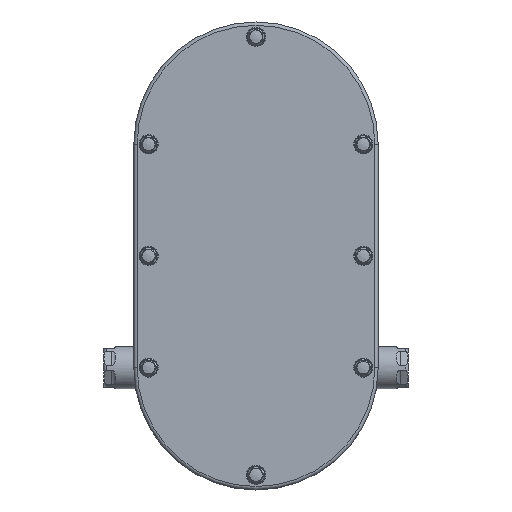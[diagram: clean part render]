
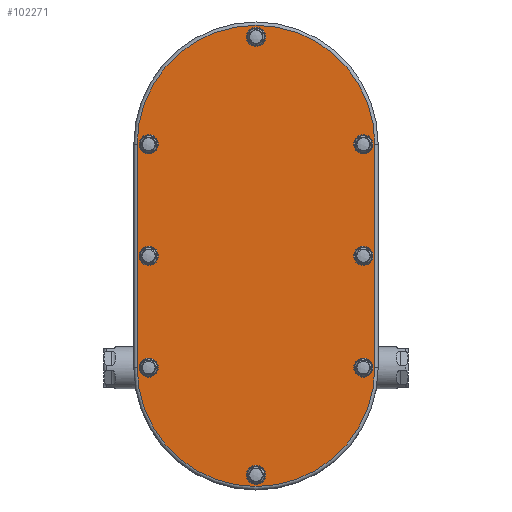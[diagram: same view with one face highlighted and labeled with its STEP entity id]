
A CAD part, top view. The second image highlights one B-rep face of the part: STEP entity #102271.
In plain terms, the highlighted planar face has unit normal (0, 0, 1).
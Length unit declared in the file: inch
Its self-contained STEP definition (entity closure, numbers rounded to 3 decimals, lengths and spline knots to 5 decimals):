
#163 = VERTEX_POINT ( 'NONE', #47968 ) ;
#233 = DIRECTION ( 'NONE',  ( 0., 0., 1. ) ) ;
#3007 = FACE_BOUND ( 'NONE', #88749, .T. ) ;
#3592 = EDGE_LOOP ( 'NONE', ( #56085 ) ) ;
#4407 = VERTEX_POINT ( 'NONE', #45728 ) ;
#4628 = FACE_BOUND ( 'NONE', #49401, .T. ) ;
#6028 = ORIENTED_EDGE ( 'NONE', *, *, #21132, .F. ) ;
#7303 = VERTEX_POINT ( 'NONE', #72763 ) ;
#7528 = CARTESIAN_POINT ( 'NONE',  ( -2.79528, 5.25394, 4.86764 ) ) ;
#8761 = CARTESIAN_POINT ( 'NONE',  ( 2.79528, 5.25394, 4.86764 ) ) ;
#8955 = VECTOR ( 'NONE', #75369, 39.37008 ) ;
#9070 = EDGE_CURVE ( 'NONE', #13839, #42126, #82256, .T. ) ;
#9252 = CIRCLE ( 'NONE', #22968, 2.79528 ) ;
#9737 = AXIS2_PLACEMENT_3D ( 'NONE', #105956, #233, #80740 ) ;
#10459 = VERTEX_POINT ( 'NONE', #29645 ) ;
#10524 = DIRECTION ( 'NONE',  ( 1., 0., 0. ) ) ;
#10552 = FACE_BOUND ( 'NONE', #3592, .T. ) ;
#13839 = VERTEX_POINT ( 'NONE', #92869 ) ;
#15441 = CIRCLE ( 'NONE', #78786, 2.79528 ) ;
#15519 = CIRCLE ( 'NONE', #72028, 0.22206 ) ;
#16799 = ORIENTED_EDGE ( 'NONE', *, *, #48566, .T. ) ;
#17065 = CARTESIAN_POINT ( 'NONE',  ( 2.52402, 2.62697, 4.86764 ) ) ;
#18651 = CARTESIAN_POINT ( 'NONE',  ( 0., 0., 4.86764 ) ) ;
#19639 = CARTESIAN_POINT ( 'NONE',  ( -2.52402, 0., 4.86764 ) ) ;
#20715 = FACE_BOUND ( 'NONE', #45830, .T. ) ;
#21132 = EDGE_CURVE ( 'NONE', #7303, #7303, #81784, .T. ) ;
#21228 = DIRECTION ( 'NONE',  ( 0., 0., 1. ) ) ;
#22968 = AXIS2_PLACEMENT_3D ( 'NONE', #18651, #92700, #90575 ) ;
#23790 = CIRCLE ( 'NONE', #52967, 0.22206 ) ;
#24773 = EDGE_LOOP ( 'NONE', ( #6028 ) ) ;
#25161 = CARTESIAN_POINT ( 'NONE',  ( 0., 7.77795, 4.86764 ) ) ;
#28779 = FACE_BOUND ( 'NONE', #101541, .T. ) ;
#29645 = CARTESIAN_POINT ( 'NONE',  ( -2.79528, 0., 4.86764 ) ) ;
#30669 = ORIENTED_EDGE ( 'NONE', *, *, #48959, .F. ) ;
#31452 = CARTESIAN_POINT ( 'NONE',  ( 0., 5.25394, 4.86764 ) ) ;
#32050 = VECTOR ( 'NONE', #83833, 39.37008 ) ;
#33812 = DIRECTION ( 'NONE',  ( -1., 0., 0. ) ) ;
#34711 = VERTEX_POINT ( 'NONE', #7528 ) ;
#35689 = CARTESIAN_POINT ( 'NONE',  ( 2.30195, 2.62697, 4.86764 ) ) ;
#37369 = PLANE ( 'NONE',  #64947 ) ;
#40349 = EDGE_CURVE ( 'NONE', #56527, #56527, #93341, .T. ) ;
#41246 = EDGE_CURVE ( 'NONE', #163, #163, #54115, .T. ) ;
#42126 = VERTEX_POINT ( 'NONE', #99013 ) ;
#43186 = LINE ( 'NONE', #62307, #8955 ) ;
#44061 = ORIENTED_EDGE ( 'NONE', *, *, #105966, .T. ) ;
#45728 = CARTESIAN_POINT ( 'NONE',  ( -0.22206, -2.52402, 4.86764 ) ) ;
#45830 = EDGE_LOOP ( 'NONE', ( #94179 ) ) ;
#46282 = ORIENTED_EDGE ( 'NONE', *, *, #70577, .F. ) ;
#46902 = ORIENTED_EDGE ( 'NONE', *, *, #96563, .T. ) ;
#47162 = EDGE_CURVE ( 'NONE', #4407, #4407, #23790, .T. ) ;
#47968 = CARTESIAN_POINT ( 'NONE',  ( -2.74608, 5.25394, 4.86764 ) ) ;
#48566 = EDGE_CURVE ( 'NONE', #42126, #34711, #15441, .T. ) ;
#48602 = CARTESIAN_POINT ( 'NONE',  ( 2.30195, 5.25394, 4.86764 ) ) ;
#48959 = EDGE_CURVE ( 'NONE', #95611, #95611, #15519, .T. ) ;
#49401 = EDGE_LOOP ( 'NONE', ( #53281 ) ) ;
#50553 = VERTEX_POINT ( 'NONE', #66114 ) ;
#52967 = AXIS2_PLACEMENT_3D ( 'NONE', #60573, #91742, #33812 ) ;
#53281 = ORIENTED_EDGE ( 'NONE', *, *, #40349, .F. ) ;
#54115 = CIRCLE ( 'NONE', #83202, 0.22206 ) ;
#54927 = DIRECTION ( 'NONE',  ( 0., 0., 1. ) ) ;
#56085 = ORIENTED_EDGE ( 'NONE', *, *, #76678, .F. ) ;
#56112 = VERTEX_POINT ( 'NONE', #48602 ) ;
#56527 = VERTEX_POINT ( 'NONE', #99390 ) ;
#58894 = DIRECTION ( 'NONE',  ( -1., 0., 0. ) ) ;
#60573 = CARTESIAN_POINT ( 'NONE',  ( 0., -2.52402, 4.86764 ) ) ;
#60748 = ORIENTED_EDGE ( 'NONE', *, *, #47162, .F. ) ;
#61238 = AXIS2_PLACEMENT_3D ( 'NONE', #19639, #21228, #10524 ) ;
#61475 = DIRECTION ( 'NONE',  ( 0., 0., -1. ) ) ;
#62307 = CARTESIAN_POINT ( 'NONE',  ( -2.79528, 5.25394, 4.86764 ) ) ;
#62441 = DIRECTION ( 'NONE',  ( -1., 0., 0. ) ) ;
#64170 = DIRECTION ( 'NONE',  ( 0., 0., 1. ) ) ;
#64947 = AXIS2_PLACEMENT_3D ( 'NONE', #76003, #61475, #69012 ) ;
#66114 = CARTESIAN_POINT ( 'NONE',  ( -2.30195, 2.62697, 4.86764 ) ) ;
#67237 = CIRCLE ( 'NONE', #72373, 0.22206 ) ;
#69012 = DIRECTION ( 'NONE',  ( -1., 0., 0. ) ) ;
#69097 = DIRECTION ( 'NONE',  ( 1., 0., 0. ) ) ;
#69858 = CARTESIAN_POINT ( 'NONE',  ( 2.30195, 0., 4.86764 ) ) ;
#70577 = EDGE_CURVE ( 'NONE', #93635, #93635, #106105, .T. ) ;
#72028 = AXIS2_PLACEMENT_3D ( 'NONE', #103216, #54927, #62441 ) ;
#72373 = AXIS2_PLACEMENT_3D ( 'NONE', #101815, #76615, #69097 ) ;
#72630 = DIRECTION ( 'NONE',  ( 0., 0., 1. ) ) ;
#72763 = CARTESIAN_POINT ( 'NONE',  ( -2.30195, 0., 4.86764 ) ) ;
#73952 = DIRECTION ( 'NONE',  ( 0., 0., 1. ) ) ;
#75369 = DIRECTION ( 'NONE',  ( 0., -1., 0. ) ) ;
#76003 = CARTESIAN_POINT ( 'NONE',  ( 0., 5.25394, 4.86764 ) ) ;
#76615 = DIRECTION ( 'NONE',  ( 0., 0., 1. ) ) ;
#76678 = EDGE_CURVE ( 'NONE', #50553, #50553, #67237, .T. ) ;
#76923 = AXIS2_PLACEMENT_3D ( 'NONE', #17065, #73952, #58894 ) ;
#78786 = AXIS2_PLACEMENT_3D ( 'NONE', #31452, #64170, #81831 ) ;
#80740 = DIRECTION ( 'NONE',  ( -1., 0., 0. ) ) ;
#81784 = CIRCLE ( 'NONE', #61238, 0.22206 ) ;
#81831 = DIRECTION ( 'NONE',  ( -1., 0., 0. ) ) ;
#82256 = LINE ( 'NONE', #8761, #32050 ) ;
#83202 = AXIS2_PLACEMENT_3D ( 'NONE', #105883, #72630, #95211 ) ;
#83833 = DIRECTION ( 'NONE',  ( 0., 1., 0. ) ) ;
#84330 = ORIENTED_EDGE ( 'NONE', *, *, #9070, .T. ) ;
#85098 = FACE_BOUND ( 'NONE', #24773, .T. ) ;
#86944 = EDGE_CURVE ( 'NONE', #56112, #56112, #103944, .T. ) ;
#88749 = EDGE_LOOP ( 'NONE', ( #94577 ) ) ;
#89022 = DIRECTION ( 'NONE',  ( 0., 0., 1. ) ) ;
#89251 = EDGE_LOOP ( 'NONE', ( #16799, #44061, #46902, #84330 ) ) ;
#90575 = DIRECTION ( 'NONE',  ( -1., 0., 0. ) ) ;
#91271 = EDGE_LOOP ( 'NONE', ( #46282 ) ) ;
#91742 = DIRECTION ( 'NONE',  ( 0., 0., 1. ) ) ;
#92700 = DIRECTION ( 'NONE',  ( 0., 0., 1. ) ) ;
#92869 = CARTESIAN_POINT ( 'NONE',  ( 2.79528, 0., 4.86764 ) ) ;
#92930 = EDGE_LOOP ( 'NONE', ( #60748 ) ) ;
#93175 = FACE_BOUND ( 'NONE', #92930, .T. ) ;
#93341 = CIRCLE ( 'NONE', #98452, 0.22206 ) ;
#93635 = VERTEX_POINT ( 'NONE', #35689 ) ;
#94179 = ORIENTED_EDGE ( 'NONE', *, *, #41246, .F. ) ;
#94577 = ORIENTED_EDGE ( 'NONE', *, *, #86944, .F. ) ;
#95211 = DIRECTION ( 'NONE',  ( -1., 0., 0. ) ) ;
#95611 = VERTEX_POINT ( 'NONE', #69858 ) ;
#96563 = EDGE_CURVE ( 'NONE', #10459, #13839, #9252, .T. ) ;
#97098 = DIRECTION ( 'NONE',  ( 0., 1., 0. ) ) ;
#98452 = AXIS2_PLACEMENT_3D ( 'NONE', #25161, #89022, #97098 ) ;
#99013 = CARTESIAN_POINT ( 'NONE',  ( 2.79528, 5.25394, 4.86764 ) ) ;
#99390 = CARTESIAN_POINT ( 'NONE',  ( 0., 8.00002, 4.86764 ) ) ;
#101541 = EDGE_LOOP ( 'NONE', ( #30669 ) ) ;
#101815 = CARTESIAN_POINT ( 'NONE',  ( -2.52402, 2.62697, 4.86764 ) ) ;
#102264 = FACE_OUTER_BOUND ( 'NONE', #89251, .T. ) ;
#102271 = ADVANCED_FACE ( 'NONE', ( #102782, #20715, #10552, #28779, #4628, #85098, #3007, #93175, #102264 ), #37369, .F. ) ;
#102782 = FACE_BOUND ( 'NONE', #91271, .T. ) ;
#103216 = CARTESIAN_POINT ( 'NONE',  ( 2.52402, 0., 4.86764 ) ) ;
#103944 = CIRCLE ( 'NONE', #9737, 0.22206 ) ;
#105883 = CARTESIAN_POINT ( 'NONE',  ( -2.52402, 5.25394, 4.86764 ) ) ;
#105956 = CARTESIAN_POINT ( 'NONE',  ( 2.52402, 5.25394, 4.86764 ) ) ;
#105966 = EDGE_CURVE ( 'NONE', #34711, #10459, #43186, .T. ) ;
#106105 = CIRCLE ( 'NONE', #76923, 0.22206 ) ;
